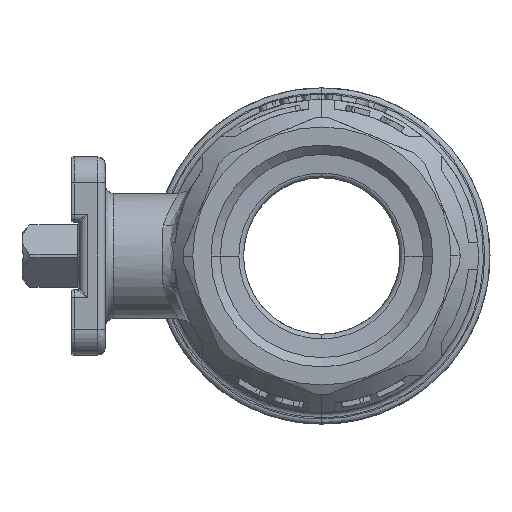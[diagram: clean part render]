
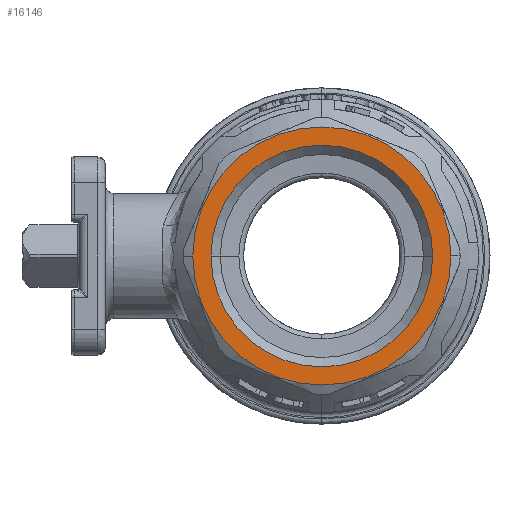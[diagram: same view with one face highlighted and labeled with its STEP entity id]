
A CAD part, left-side view. The second image highlights one B-rep face of the part: STEP entity #16146.
In plain terms, the highlighted planar face has unit normal (-1, 0, 0).
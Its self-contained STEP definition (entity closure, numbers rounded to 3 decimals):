
#12755 = EDGE_CURVE ( 'NONE', #17684, #17669, #90766, .T. ) ;
#16133 = EDGE_LOOP ( 'NONE', ( #16205, #16244 ) ) ;
#16146 = ADVANCED_FACE ( 'NONE', ( #51346, #51345 ), #51344, .F. ) ;
#16178 = EDGE_CURVE ( 'NONE', #17566, #17584, #51407, .T. ) ;
#16187 = ORIENTED_EDGE ( 'NONE', *, *, #12755, .F. ) ;
#16200 = ORIENTED_EDGE ( 'NONE', *, *, #17608, .F. ) ;
#16202 = EDGE_LOOP ( 'NONE', ( #16187, #16200 ) ) ;
#16205 = ORIENTED_EDGE ( 'NONE', *, *, #16178, .T. ) ;
#16244 = ORIENTED_EDGE ( 'NONE', *, *, #17644, .T. ) ;
#17566 = VERTEX_POINT ( 'NONE', #55135 ) ;
#17584 = VERTEX_POINT ( 'NONE', #55203 ) ;
#17608 = EDGE_CURVE ( 'NONE', #17669, #17684, #55286, .T. ) ;
#17644 = EDGE_CURVE ( 'NONE', #17584, #17566, #55378, .T. ) ;
#17669 = VERTEX_POINT ( 'NONE', #55397 ) ;
#17684 = VERTEX_POINT ( 'NONE', #55440 ) ;
#51339 = DIRECTION ( 'NONE',  ( 0., 0., -1. ) ) ;
#51340 = DIRECTION ( 'NONE',  ( 1., 0., 0. ) ) ;
#51341 = AXIS2_PLACEMENT_3D ( 'NONE', #51343, #51340, #51339 ) ;
#51343 = CARTESIAN_POINT ( 'NONE',  ( -50., -25.047, 25.047 ) ) ;
#51344 = PLANE ( 'NONE',  #51341 ) ;
#51345 = FACE_OUTER_BOUND ( 'NONE', #16133, .T. ) ;
#51346 = FACE_BOUND ( 'NONE', #16202, .T. ) ;
#51403 = DIRECTION ( 'NONE',  ( 0., 1., 0. ) ) ;
#51404 = DIRECTION ( 'NONE',  ( -1., 0., 0. ) ) ;
#51405 = CARTESIAN_POINT ( 'NONE',  ( -50., 0., 0. ) ) ;
#51406 = AXIS2_PLACEMENT_3D ( 'NONE', #51405, #51404, #51403 ) ;
#51407 = CIRCLE ( 'NONE', #51406, 24.75 ) ;
#55135 = CARTESIAN_POINT ( 'NONE',  ( -50., 24.75, 0. ) ) ;
#55203 = CARTESIAN_POINT ( 'NONE',  ( -50., -24.75, 0. ) ) ;
#55282 = DIRECTION ( 'NONE',  ( 0., -1., 0. ) ) ;
#55283 = DIRECTION ( 'NONE',  ( -1., 0., 0. ) ) ;
#55284 = CARTESIAN_POINT ( 'NONE',  ( -50., 0., 0. ) ) ;
#55285 = AXIS2_PLACEMENT_3D ( 'NONE', #55284, #55283, #55282 ) ;
#55286 = CIRCLE ( 'NONE', #55285, 21.25 ) ;
#55374 = DIRECTION ( 'NONE',  ( 0., 1., 0. ) ) ;
#55375 = DIRECTION ( 'NONE',  ( -1., 0., 0. ) ) ;
#55376 = CARTESIAN_POINT ( 'NONE',  ( -50., 0., 0. ) ) ;
#55377 = AXIS2_PLACEMENT_3D ( 'NONE', #55376, #55375, #55374 ) ;
#55378 = CIRCLE ( 'NONE', #55377, 24.75 ) ;
#55397 = CARTESIAN_POINT ( 'NONE',  ( -50., 21.25, 0. ) ) ;
#55440 = CARTESIAN_POINT ( 'NONE',  ( -50., -21.25, 0. ) ) ;
#90762 = DIRECTION ( 'NONE',  ( 0., -1., 0. ) ) ;
#90763 = DIRECTION ( 'NONE',  ( -1., 0., 0. ) ) ;
#90764 = CARTESIAN_POINT ( 'NONE',  ( -50., 0., 0. ) ) ;
#90765 = AXIS2_PLACEMENT_3D ( 'NONE', #90764, #90763, #90762 ) ;
#90766 = CIRCLE ( 'NONE', #90765, 21.25 ) ;
